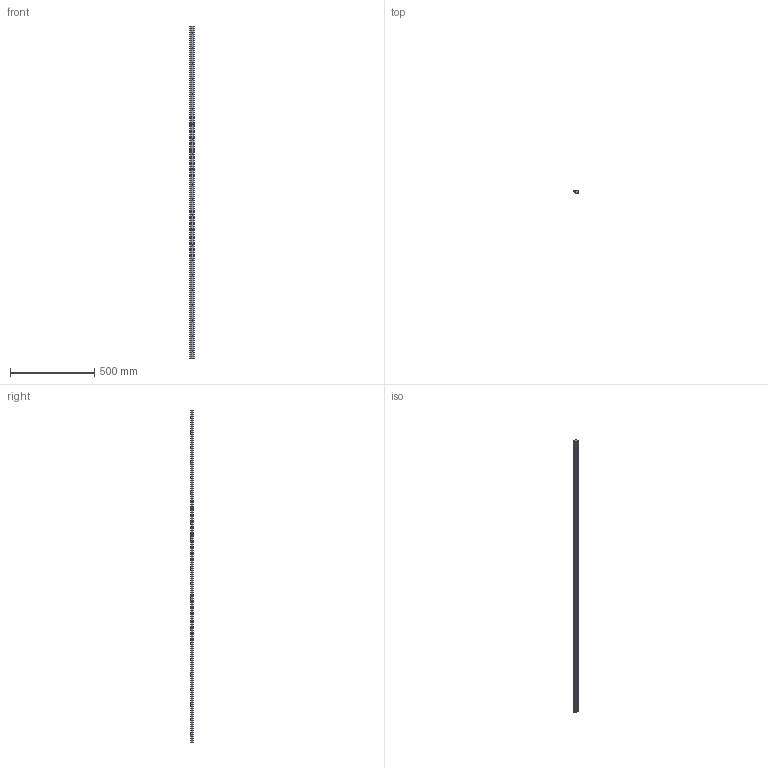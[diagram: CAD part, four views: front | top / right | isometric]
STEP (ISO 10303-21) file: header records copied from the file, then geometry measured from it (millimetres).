
FILE_DESCRIPTION(('STEP AP203'),'1');
FILE_NAME('slide_nmel1976p3.stp','2022-07-04T01:23:12',('TraceParts'),('TraceParts S.A.'),'Spatial InterOp 3D',' ',' ');
FILE_SCHEMA(('CONFIG_CONTROL_DESIGN'));
Length unit declared in the file: millimetre
Products named in the file (1): 1
Bounding box: 29.32 x 15.91 x 1976 mm (x, y, z)
Volume: 645902.8 mm3; surface area: 192716 mm2
Topology: 1 solids, 1 shells, 130 faces, 318 edges, 212 vertices
Faces by surface type: cylinder 95, plane 35
Entity records: 4064 total; most frequent: DIRECTION 770, CARTESIAN_POINT 661, ORIENTED_EDGE 636, AXIS2_PLACEMENT_3D 321, EDGE_CURVE 318, VERTEX_POINT 212, EDGE_LOOP 196, CIRCLE 190
